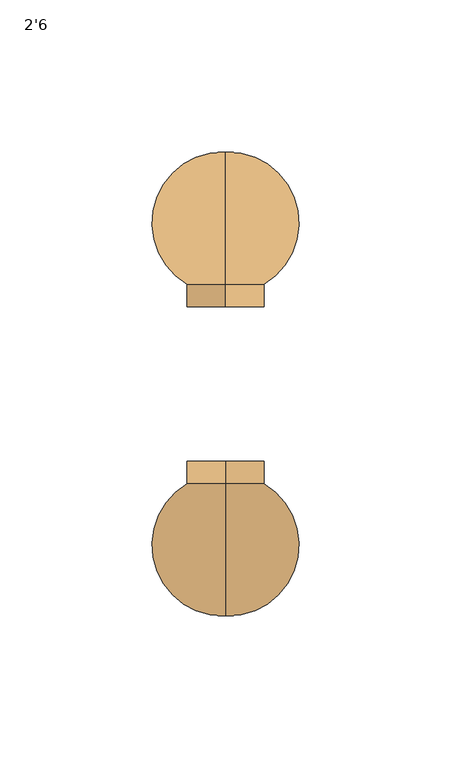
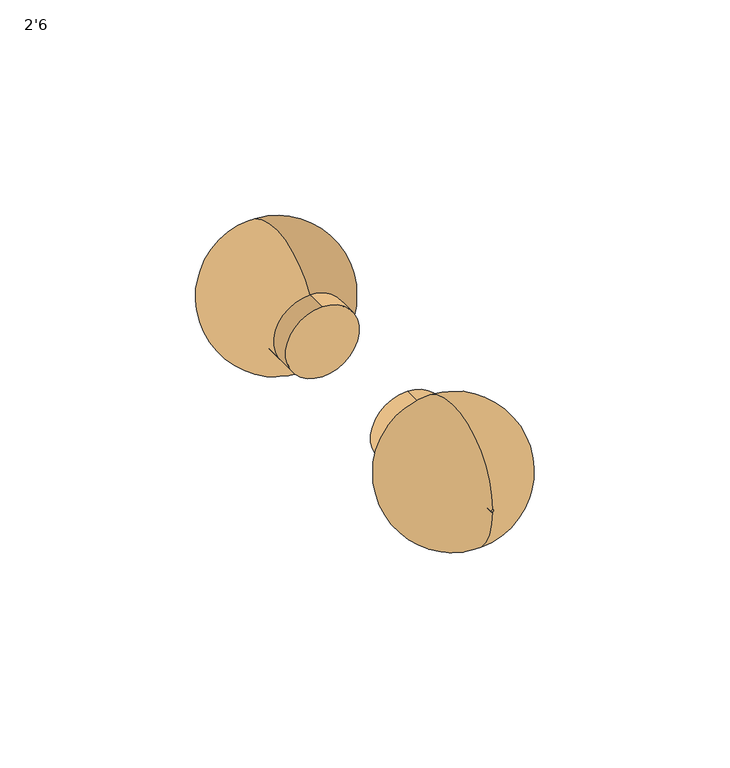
"""IFC4 building model written with IfcOpenShell, lengths in millimetres: door geometry, Planitar - Single Door : 2'6."""

from ifc_helpers import new_model, si_unit, point, frame, frame_2d, origin, place, context, project, spatial, polyline, circle_curve, ellipse_curve, trimmed, segment, composite_curve, outline, extrude, source, transform, mapped, element, save
from ifc_brep_helpers import plane_surface, revolved_surface, advanced_brep


def door_2_6_e0459014(model_context):
    return source(origin(), model_context, "Body", "SolidModel", [
        advanced_brep(
        [(-317.5, -12.7, 1028.7), (-317.5, -12.7, 1003.3), (-317.5, -7.3563035, 1003.3), (-317.5, -7.3563035, 1028.7), (-317.5, -50.8, 1016.4831019), (-317.5, -50.8, 1015.5168981), (-317.5, -12.7, 1015.5168981), (-317.5, -12.7, 1016.4831019)],
        [
            (0, 1, circle_curve(frame((-317.5, -12.7, 1016.0), z_axis=(0.0, -1.0, 0.0), x_axis=(0.0, 0.0, -1.0)), 12.7)),
            (1, 2),
            (2, 3, circle_curve(frame((-317.5, -7.3563035, 1016.0), z_axis=(0.0, 1.0, 0.0), x_axis=(0.0, 0.0, -1.0)), 12.7)),
            (3, 0),
            (4, 5, circle_curve(frame((-317.5, -50.8, 1016.0), z_axis=(0.0, -1.0, 0.0), x_axis=(0.0, 0.0, -1.0)), 0.4831019)),
            (5, 6),
            (6, 7, circle_curve(frame((-317.5, -12.7, 1016.0), z_axis=(0.0, 1.0, 0.0), x_axis=(0.0, 0.0, -1.0)), 0.4831019)),
            (7, 4),
            (1, 0, circle_curve(frame((-317.5, -12.7, 1016.0), z_axis=(0.0, -1.0, 0.0), x_axis=(0.0, 0.0, 1.0)), 12.7)),
            (3, 2, circle_curve(frame((-317.5, -7.3563035, 1016.0), z_axis=(0.0, 1.0, 0.0), x_axis=(0.0, 0.0, 1.0)), 12.7)),
            (6, 7, circle_curve(frame((-317.5, -12.7, 1016.0), z_axis=(0.0, -1.0, 0.0), x_axis=(0.0, 0.0, 1.0)), 0.4831019)),
            (5, 4, circle_curve(frame((-317.5, -50.8, 1016.0), z_axis=(0.0, -1.0, 0.0), x_axis=(0.0, 0.0, 1.0)), 0.4831019)),
            (2, 5, circle_curve(frame((-317.5, -27.5182494, 1014.9555138), z_axis=(-1.0, 0.0, 0.0), x_axis=(0.0, -1.0, 0.0)), 23.2885178)),
            (4, 3, circle_curve(frame((-317.5, -27.5182494, 1017.0444862), z_axis=(-1.0, 0.0, 0.0), x_axis=(0.0, -1.0, 0.0)), 23.2885178)),
        ],
        [
            revolved_surface(polyline([(-317.5, -7.3563035, 1003.3), (-317.5, -12.7, 1003.3)]), (-317.5, -12.7, 1016.0), (0.0, 1.0, 0.0)),
            revolved_surface(polyline([(-317.5, -12.7, 1015.5168981), (-317.5, -50.8, 1015.5168981)]), (-317.5, -12.7, 1016.0), (0.0, 1.0, 0.0)),
            revolved_surface(polyline([(-317.5, -7.3563035, 1028.7), (-317.5, -12.7, 1028.7)]), (-317.5, -12.7, 1016.0), (0.0, 1.0, 0.0)),
            plane_surface(frame((-317.5, -12.7, 1016.0), z_axis=(0.0, 1.0, 0.0), x_axis=(0.0, 0.0, 1.0))),
            revolved_surface(polyline([(-317.5, -12.7, 1016.4831019), (-317.5, -50.8, 1016.4831019)]), (-317.5, -12.7, 1016.0), (0.0, 1.0, 0.0)),
            revolved_surface(trimmed(ellipse_curve(frame((-317.5, -27.5182494, 1014.9555138), z_axis=(1.0, 0.0, 0.0), x_axis=(0.0, -1.0, 0.0)), 23.2885178, 23.2885178), [point((-317.5, -50.8, 1015.5168981))], [point((-317.5, -7.3563035, 1003.3))], True, "CARTESIAN"), (-317.5, -12.7, 1016.0), (0.0, 1.0, 0.0)),
            revolved_surface(trimmed(ellipse_curve(frame((-317.5, -27.5182494, 1017.0444862), z_axis=(-1.0, 0.0, 0.0), x_axis=(0.0, -1.0, 0.0)), 23.2885178, 23.2885178), [point((-317.5, -50.8, 1016.4831019))], [point((-317.5, -7.3563035, 1028.7))], True, "CARTESIAN"), (-317.5, -12.7, 1016.0), (0.0, 1.0, 0.0)),
        ],
        [
            (0, [[1, 2, 3, 4]]),
            (1, [[5, 6, 7, 8]]),
            (2, [[9, -4, 10, -2]]),
            (3, [[-9, -1], [11, -7]]),
            (4, [[12, -8, -11, -6]]),
            (5, [[-3, 13, -5, 14]]),
            (6, [[-10, -14, -12, -13]]),
        ],
    ),
        extrude(outline(composite_curve([segment(trimmed(circle_curve(frame_2d((1016.0, -317.5)), 12.7), [point((1028.7, -317.5))], [point((1003.3, -317.5))], False, "CARTESIAN"), True, "CONTINUOUS"), segment(trimmed(circle_curve(frame_2d((1016.0, -317.5)), 12.7), [point((1003.3, -317.5))], [point((1028.7, -317.5))], False, "CARTESIAN"), True, "CONTINUOUS")], self_intersect=False)), frame((0.0, -12.7, 0.0), z_axis=(0.0, 1.0, 0.0), x_axis=(0.0, 0.0, 1.0)), (0.0, 0.0, 1.0), 12.7),
        advanced_brep(
        [(-317.5, 63.5, 1028.7), (-317.5, 63.5, 1003.3), (-317.5, 58.1563035, 1003.3), (-317.5, 58.1563035, 1028.7), (-317.5, 101.6, 1016.4831019), (-317.5, 101.6, 1015.5168981), (-317.5, 63.5, 1015.5168981), (-317.5, 63.5, 1016.4831019)],
        [
            (0, 1, circle_curve(frame((-317.5, 63.5, 1016.0), z_axis=(0.0, 1.0, 0.0), x_axis=(0.0, 0.0, -1.0)), 12.7)),
            (1, 2),
            (2, 3, circle_curve(frame((-317.5, 58.1563035, 1016.0), z_axis=(0.0, -1.0, 0.0), x_axis=(0.0, 0.0, -1.0)), 12.7)),
            (3, 0),
            (4, 5, circle_curve(frame((-317.5, 101.6, 1016.0), z_axis=(0.0, 1.0, 0.0), x_axis=(0.0, 0.0, -1.0)), 0.4831019)),
            (5, 6),
            (6, 7, circle_curve(frame((-317.5, 63.5, 1016.0), z_axis=(0.0, -1.0, 0.0), x_axis=(0.0, 0.0, -1.0)), 0.4831019)),
            (7, 4),
            (1, 0, circle_curve(frame((-317.5, 63.5, 1016.0), z_axis=(0.0, 1.0, 0.0), x_axis=(0.0, 0.0, 1.0)), 12.7)),
            (3, 2, circle_curve(frame((-317.5, 58.1563035, 1016.0), z_axis=(0.0, -1.0, 0.0), x_axis=(0.0, 0.0, 1.0)), 12.7)),
            (6, 7, circle_curve(frame((-317.5, 63.5, 1016.0), z_axis=(0.0, 1.0, 0.0), x_axis=(0.0, 0.0, 1.0)), 0.4831019)),
            (5, 4, circle_curve(frame((-317.5, 101.6, 1016.0), z_axis=(0.0, 1.0, 0.0), x_axis=(0.0, 0.0, 1.0)), 0.4831019)),
            (2, 5, circle_curve(frame((-317.5, 78.3182494, 1014.9555138), z_axis=(1.0, 0.0, 0.0), x_axis=(0.0, 1.0, 0.0)), 23.2885178)),
            (4, 3, circle_curve(frame((-317.5, 78.3182494, 1017.0444862), z_axis=(1.0, 0.0, 0.0), x_axis=(0.0, 1.0, 0.0)), 23.2885178)),
        ],
        [
            revolved_surface(polyline([(-317.5, 58.1563035, 1003.3), (-317.5, 63.5, 1003.3)]), (-317.5, 63.5, 1016.0), (0.0, -1.0, 0.0)),
            revolved_surface(polyline([(-317.5, 63.5, 1015.5168981), (-317.5, 101.6, 1015.5168981)]), (-317.5, 63.5, 1016.0), (0.0, -1.0, 0.0)),
            revolved_surface(polyline([(-317.5, 58.1563035, 1028.7), (-317.5, 63.5, 1028.7)]), (-317.5, 63.5, 1016.0), (0.0, -1.0, 0.0)),
            plane_surface(frame((-317.5, 63.5, 1016.0), z_axis=(0.0, -1.0, 0.0), x_axis=(0.0, 0.0, 1.0))),
            revolved_surface(polyline([(-317.5, 63.5, 1016.4831019), (-317.5, 101.6, 1016.4831019)]), (-317.5, 63.5, 1016.0), (0.0, -1.0, 0.0)),
            revolved_surface(trimmed(ellipse_curve(frame((-317.5, 78.3182494, 1014.9555138), z_axis=(-1.0, 0.0, 0.0), x_axis=(0.0, 1.0, 0.0)), 23.2885178, 23.2885178), [point((-317.5, 101.6, 1015.5168981))], [point((-317.5, 58.1563035, 1003.3))], True, "CARTESIAN"), (-317.5, 63.5, 1016.0), (0.0, -1.0, 0.0)),
            revolved_surface(trimmed(ellipse_curve(frame((-317.5, 78.3182494, 1017.0444862), z_axis=(1.0, 0.0, 0.0), x_axis=(0.0, 1.0, 0.0)), 23.2885178, 23.2885178), [point((-317.5, 101.6, 1016.4831019))], [point((-317.5, 58.1563035, 1028.7))], True, "CARTESIAN"), (-317.5, 63.5, 1016.0), (0.0, -1.0, 0.0)),
        ],
        [
            (0, [[1, 2, 3, 4]]),
            (1, [[5, 6, 7, 8]]),
            (2, [[9, -4, 10, -2]]),
            (3, [[-9, -1], [11, -7]]),
            (4, [[12, -8, -11, -6]]),
            (5, [[-3, 13, -5, 14]]),
            (6, [[-10, -14, -12, -13]]),
        ],
    ),
        extrude(outline(composite_curve([segment(trimmed(circle_curve(frame_2d((1016.0, -317.5)), 12.7), [point((1028.7, -317.5))], [point((1003.3, -317.5))], False, "CARTESIAN"), True, "CONTINUOUS"), segment(trimmed(circle_curve(frame_2d((1016.0, -317.5)), 12.7), [point((1003.3, -317.5))], [point((1028.7, -317.5))], False, "CARTESIAN"), True, "CONTINUOUS")], self_intersect=False)), frame((0.0, 50.8, 0.0), z_axis=(0.0, 1.0, 0.0), x_axis=(0.0, 0.0, 1.0)), (0.0, 0.0, 1.0), 12.7),
    ])


if __name__ == "__main__":
    model = new_model("IFC4")
    model_context = context("Model", 3, world=origin())
    ifc_project = project(units=[si_unit("LENGTHUNIT", "METRE", prefix="MILLI")], contexts=[model_context])
    site = spatial("IfcSite", under=ifc_project)
    building = spatial("IfcBuilding", under=site)
    placement = place(None, origin())
    door_2_6_shape = door_2_6_e0459014(model_context)
    element("IfcDoor", 1, ObjectType="Planitar - Single Door : 2'6", at=placement, inside=building, context=model_context, shape_type="MappedRepresentation", body=[
        mapped(door_2_6_shape, transform((0.0, 0.0, 0.0), x_axis=(1.0, 0.0, 0.0), y_axis=(0.0, 1.0, 0.0), z_axis=(0.0, 0.0, 1.0))),
    ])
    save(model, "model.ifc")
